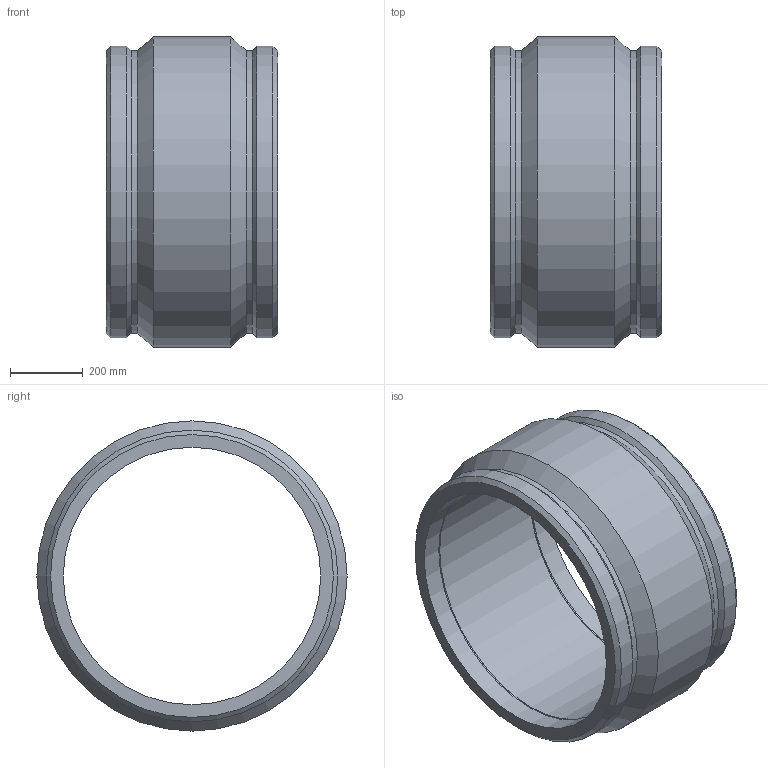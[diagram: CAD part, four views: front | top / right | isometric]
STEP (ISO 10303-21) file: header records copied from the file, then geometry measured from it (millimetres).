
FILE_DESCRIPTION(/* description */ ('PLASSON IPS COUPLER 28'''''),/* implementation_level */ '2;1');
FILE_NAME(/* name */ 'C:\Dropbox\KIMPROJECTS-Inventor 2019\99-16-3568-Processing Inch\ASTM ElectroFusion 2021\5901B\59013003280.ipt.stp',/* time_stamp */ '2021-08-30T09:48:39+03:00',/* author */ ('KIM'),/* organization */ (''),/* preprocessor_version */ 'ST-DEVELOPER v17.2',/* originating_system */ 'Autodesk Inventor 2019',/* authorisation */ '');
FILE_SCHEMA (('AUTOMOTIVE_DESIGN { 1 0 10303 214 3 1 1 }'));
Length unit declared in the file: inch
Products named in the file (1): 59013003280
Bounding box: 471.93 x 852.93 x 852.93 mm (x, y, z)
Volume: 66346344 mm3; surface area: 2558347.6 mm2
Topology: 1 solids, 1 shells, 20 faces, 56 edges, 40 vertices
Faces by surface type: cone 8, cylinder 8, plane 4
Full cylindrical faces by diameter (mm): 708 x3, 777.703 x2, 801.756 x2, 852.932 x1
Entity records: 731 total; most frequent: DIRECTION 138, CARTESIAN_POINT 117, ORIENTED_EDGE 112, AXIS2_PLACEMENT_3D 61, EDGE_CURVE 56, CIRCLE 40, VERTEX_POINT 40, EDGE_LOOP 24
